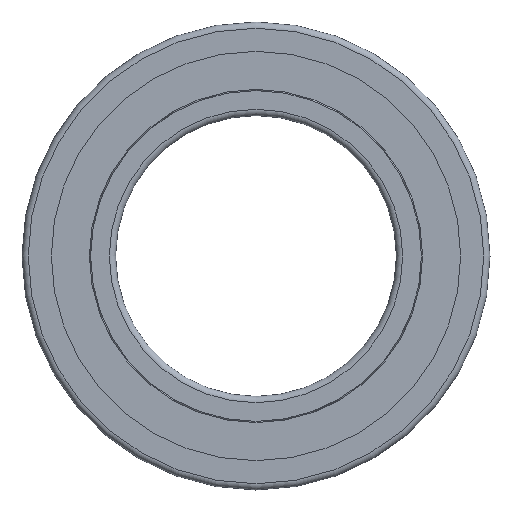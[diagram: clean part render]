
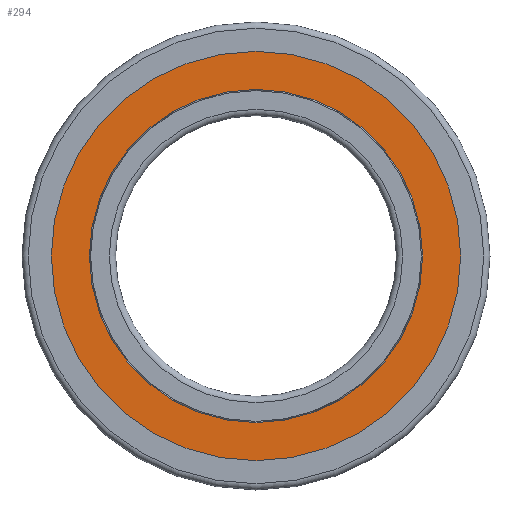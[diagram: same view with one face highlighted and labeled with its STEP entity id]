
A CAD part, left-side view. The second image highlights one B-rep face of the part: STEP entity #294.
In plain terms, the highlighted planar face has unit normal (-1, 0, 0).
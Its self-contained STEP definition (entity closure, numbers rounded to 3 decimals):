
#240=PLANE('',#1072);
#294=ADVANCED_FACE('',(#385,#386),#240,.F.);
#385=FACE_BOUND('',#559,.T.);
#386=FACE_BOUND('',#560,.T.);
#559=EDGE_LOOP('',(#711));
#560=EDGE_LOOP('',(#712));
#711=ORIENTED_EDGE('',*,*,#953,.F.);
#712=ORIENTED_EDGE('',*,*,#951,.T.);
#853=VERTEX_POINT('',#1404);
#855=VERTEX_POINT('',#1409);
#951=EDGE_CURVE('',#853,#853,#1027,.T.);
#953=EDGE_CURVE('',#855,#855,#1029,.T.);
#1027=CIRCLE('',#1068,32.8);
#1029=CIRCLE('',#1071,26.7);
#1068=AXIS2_PLACEMENT_3D('',#1403,#1194,#1195);
#1071=AXIS2_PLACEMENT_3D('',#1408,#1200,#1201);
#1072=AXIS2_PLACEMENT_3D('',#1410,#1202,#1203);
#1194=DIRECTION('',(-1.,0.,0.));
#1195=DIRECTION('',(0.,0.,1.));
#1200=DIRECTION('',(-1.,0.,0.));
#1201=DIRECTION('',(0.,0.,1.));
#1202=DIRECTION('',(1.,0.,0.));
#1203=DIRECTION('',(0.,0.,-1.));
#1403=CARTESIAN_POINT('',(0.1,0.,0.));
#1404=CARTESIAN_POINT('',(0.1,0.,32.8));
#1408=CARTESIAN_POINT('',(0.1,0.,0.));
#1409=CARTESIAN_POINT('',(0.1,0.,26.7));
#1410=CARTESIAN_POINT('',(0.1,0.,32.8));
